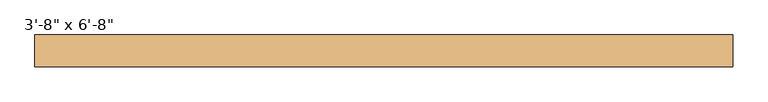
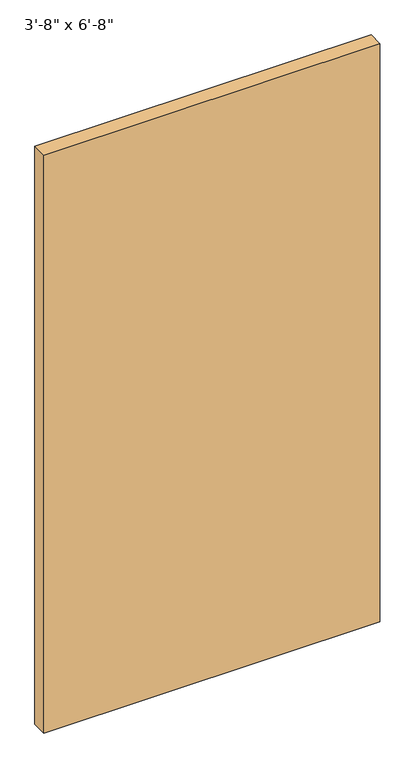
"""IFC4 building model written with IfcOpenShell, lengths in millimetres: door geometry."""

from ifc_helpers import new_model, si_unit, origin, origin_with_axes, place, context, project, spatial, polyline, outline, extrude, source, transform, mapped, element, save


def door_db714eb8(model_context):
    return source(origin(), model_context, "Body", "SweptSolid", [
        extrude(outline(polyline([(558.8, -31.5515625), (558.8, -82.55), (-558.8, -82.55), (-558.8, -31.5515625), (558.8, -31.5515625)])), origin_with_axes(), (0.0, 0.0, 1.0), 2032.0),
    ])


if __name__ == "__main__":
    model = new_model("IFC4")
    model_context = context("Model", 3, world=origin())
    ifc_project = project(units=[si_unit("LENGTHUNIT", "METRE", prefix="MILLI")], contexts=[model_context])
    site = spatial("IfcSite", under=ifc_project)
    building = spatial("IfcBuilding", under=site)
    placement = place(None, origin())
    door_shape = door_db714eb8(model_context)
    element("IfcDoor", 1, ObjectType="Planitar - Single Door_Flush Panel : 3'-8\" x 6'-8\"", at=placement, inside=building, context=model_context, shape_type="MappedRepresentation", body=[
        mapped(door_shape, transform((0.0, 0.0, 0.0), x_axis=(1.0, 0.0, 0.0), y_axis=(0.0, 1.0, 0.0), z_axis=(0.0, 0.0, 1.0))),
    ])
    save(model, "model.ifc")
